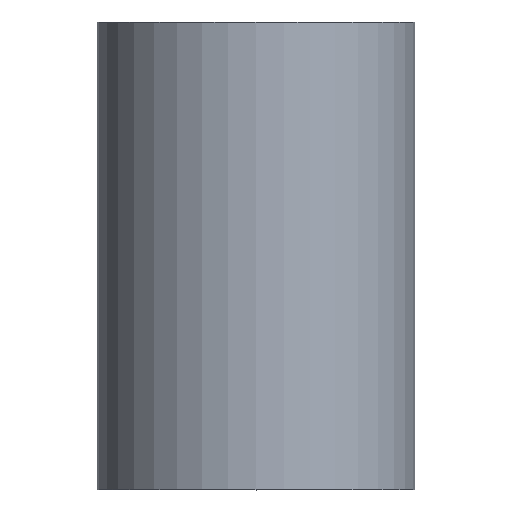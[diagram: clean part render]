
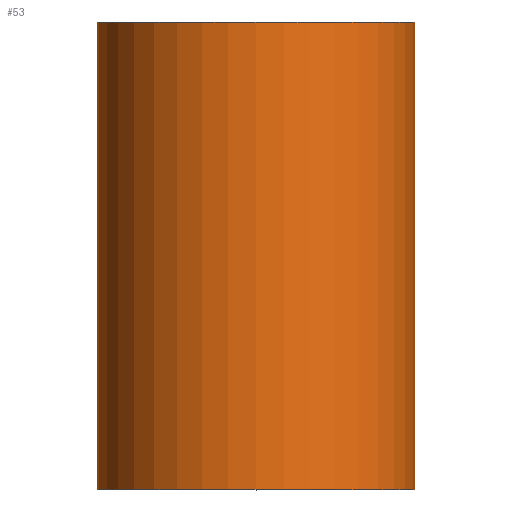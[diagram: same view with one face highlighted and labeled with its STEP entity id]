
A CAD part, top view. The second image highlights one B-rep face of the part: STEP entity #53.
In plain terms, the highlighted cylindrical face has radius 17 mm (diameter 34 mm), a full revolution.
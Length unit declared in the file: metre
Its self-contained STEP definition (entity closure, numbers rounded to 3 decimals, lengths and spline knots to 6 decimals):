
#16=ORIENTED_EDGE('',*,*,#24,.T.);
#17=ORIENTED_EDGE('',*,*,#25,.F.);
#24=EDGE_CURVE('',#28,#28,#32,.T.);
#25=EDGE_CURVE('',#29,#29,#33,.T.);
#28=VERTEX_POINT('',#103);
#29=VERTEX_POINT('',#105);
#32=CIRCLE('',#73,0.017);
#33=CIRCLE('',#74,0.017);
#36=EDGE_LOOP('',(#16));
#37=EDGE_LOOP('',(#17));
#44=FACE_BOUND('',#36,.T.);
#45=FACE_BOUND('',#37,.T.);
#51=CYLINDRICAL_SURFACE('',#72,0.017);
#53=ADVANCED_FACE('',(#44,#45),#51,.T.);
#72=AXIS2_PLACEMENT_3D('',#101,#85,#86);
#73=AXIS2_PLACEMENT_3D('',#102,#87,#88);
#74=AXIS2_PLACEMENT_3D('',#104,#89,#90);
#85=DIRECTION('',(0.,-1.,0.));
#86=DIRECTION('',(0.,0.,-1.));
#87=DIRECTION('',(0.,-1.,0.));
#88=DIRECTION('',(0.,0.,-1.));
#89=DIRECTION('',(0.,-1.,0.));
#90=DIRECTION('',(0.,0.,-1.));
#101=CARTESIAN_POINT('',(0.,-0.3006,0.));
#102=CARTESIAN_POINT('',(0.,-0.3006,0.));
#103=CARTESIAN_POINT('',(0.,-0.3006,-0.017));
#104=CARTESIAN_POINT('',(0.,-0.3506,0.));
#105=CARTESIAN_POINT('',(0.,-0.3506,-0.017));
